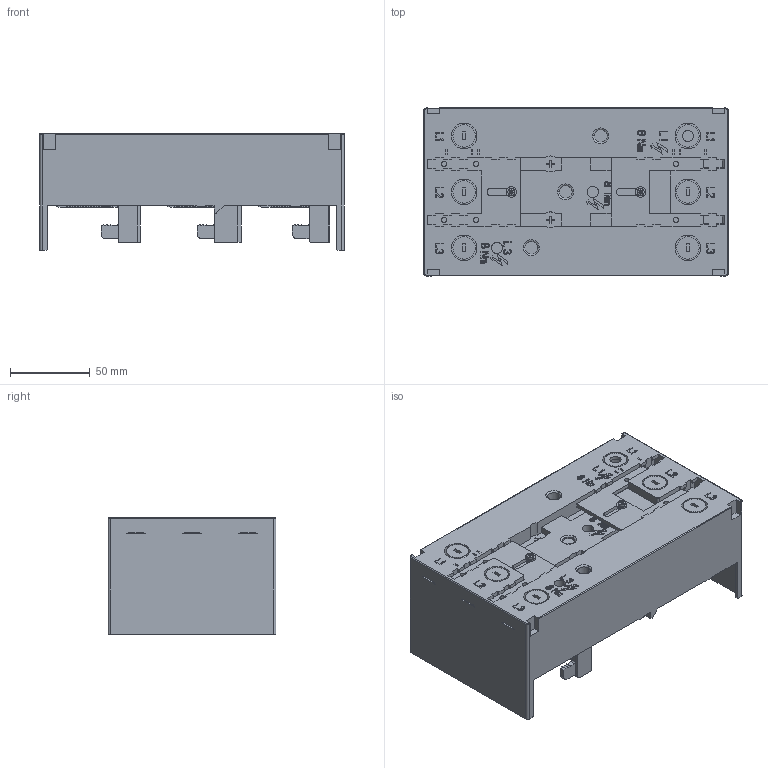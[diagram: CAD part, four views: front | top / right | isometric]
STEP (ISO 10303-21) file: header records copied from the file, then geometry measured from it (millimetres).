
FILE_DESCRIPTION (( 'STEP AP214' ), '1' );
FILE_NAME ('55221潠芞.ST', '2023-07-31T08:10:07', ( 'Windows User' ), ( 'P R C' ), 'SwSTEP 2.0', 'SolidWorks 2019', '' );
FILE_SCHEMA (( 'AUTOMOTIVE_DESIGN' ));
Length unit declared in the file: millimetre
Products named in the file (1): 55221潠芞赤_“a_
Bounding box: 190.5 x 105 x 73 mm (x, y, z)
Volume: 795948.2 mm3; surface area: 149778.3 mm2
Topology: 1 solids, 5 shells, 2308 faces, 6469 edges, 4244 vertices
Faces by surface type: plane 1900, cylinder 331, cone 30, bspline 29, torus 14, sphere 4
Entity records: 77086 total; most frequent: CARTESIAN_POINT 16467, ORIENTED_EDGE 12938, DIRECTION 11721, EDGE_CURVE 6469, LINE 5453, VECTOR 5453, VERTEX_POINT 4244, AXIS2_PLACEMENT_3D 3134
